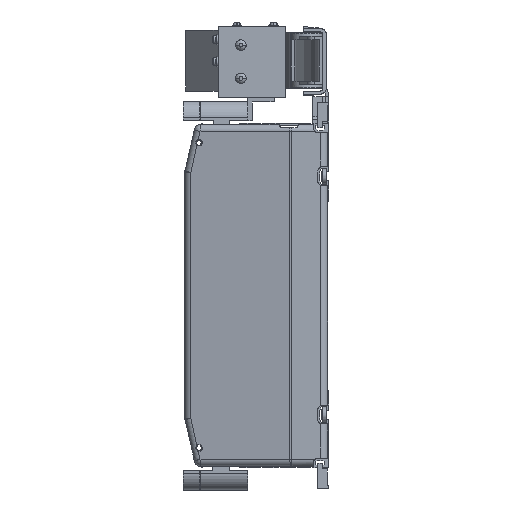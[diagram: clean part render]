
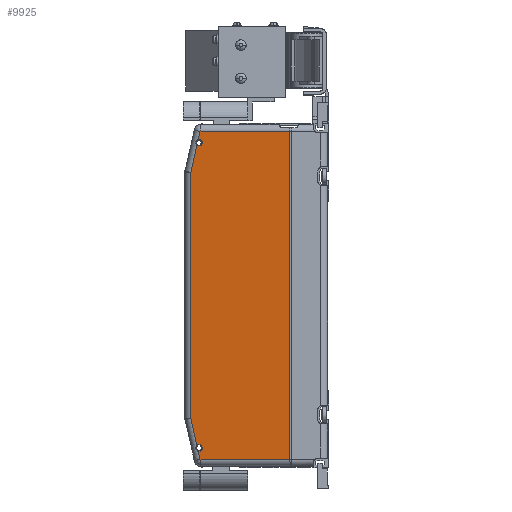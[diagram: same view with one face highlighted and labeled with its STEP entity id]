
A CAD part, left-side view. The second image highlights one B-rep face of the part: STEP entity #9925.
In plain terms, the highlighted planar face has unit normal (-0.986, 0.164, 0).
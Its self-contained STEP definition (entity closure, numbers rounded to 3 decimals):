
#8861=CARTESIAN_POINT('',(-1.429,94.428,
-108.488));
#8862=CARTESIAN_POINT('',(-1.502,93.989,
-108.137));
#8863=CARTESIAN_POINT('',(-1.585,93.489,-107.963));
#8864=CARTESIAN_POINT('',(-1.678,92.93,-107.963));
#8870=CARTESIAN_POINT('',(-1.678,92.93,-112.763));
#8871=CARTESIAN_POINT('',(-1.647,93.117,-112.763));
#8872=CARTESIAN_POINT('',(-1.616,93.302,
-112.741));
#8873=CARTESIAN_POINT('',(-1.586,93.484,
-112.698));
#8895=DIRECTION('',(-0.164,-0.986,0.));
#8896=VECTOR('',#8895,65.855);
#8897=CARTESIAN_POINT('',(-1.805,92.167,118.573));
#8898=LINE('',#8897,#8896);
#8899=DIRECTION('',(0.,0.,-1.));
#8900=VECTOR('',#8899,237.146);
#8901=CARTESIAN_POINT('',(-12.632,27.208,118.573));
#8902=LINE('',#8901,#8900);
#8903=DIRECTION('',(0.164,0.986,0.));
#8904=VECTOR('',#8903,65.855);
#8905=CARTESIAN_POINT('',(-12.632,27.208,-118.573));
#8906=LINE('',#8905,#8904);
#8907=DIRECTION('',(0.036,0.219,0.975));
#8908=VECTOR('',#8907,6.025);
#8909=CARTESIAN_POINT('',(-1.805,92.167,-118.573));
#8910=LINE('',#8909,#8908);
#8911=DIRECTION('',(0.036,0.219,0.975));
#8912=VECTOR('',#8911,20.094);
#8913=CARTESIAN_POINT('',(-1.429,94.428,
-108.488));
#8914=LINE('',#8913,#8912);
#8915=DIRECTION('',(-0.036,-0.219,0.975));
#8916=VECTOR('',#8915,20.071);
#8917=CARTESIAN_POINT('',(-0.696,98.822,
88.894));
#8918=LINE('',#8917,#8916);
#8919=DIRECTION('',(-0.036,-0.219,0.975));
#8920=VECTOR('',#8919,6.053);
#8921=CARTESIAN_POINT('',(-1.585,93.491,112.671));
#8922=LINE('',#8921,#8920);
#8986=DIRECTION('',(0.,0.,-1.));
#8987=VECTOR('',#8986,177.789);
#8988=CARTESIAN_POINT('',(-0.696,98.822,
88.894));
#8989=LINE('',#8988,#8987);
#9050=CARTESIAN_POINT('',(-1.585,93.491,112.671));
#9051=CARTESIAN_POINT('',(-1.616,93.306,112.715));
#9052=CARTESIAN_POINT('',(-1.647,93.119,112.737));
#9053=CARTESIAN_POINT('',(-1.678,92.93,112.737));
#9059=CARTESIAN_POINT('',(-1.678,92.93,107.937));
#9060=CARTESIAN_POINT('',(-1.585,93.492,107.937));
#9061=CARTESIAN_POINT('',(-1.501,93.993,108.112));
#9062=CARTESIAN_POINT('',(-1.428,94.433,108.466));
#9064=CARTESIAN_POINT('',(-1.678,92.93,112.737));
#9065=CARTESIAN_POINT('',(-1.725,92.647,112.737));
#9066=CARTESIAN_POINT('',(-1.827,92.036,112.634));
#9067=CARTESIAN_POINT('',(-1.97,91.182,112.086));
#9068=CARTESIAN_POINT('',(-2.061,90.633,111.225));
#9069=CARTESIAN_POINT('',(-2.087,90.479,110.337));
#9070=CARTESIAN_POINT('',(-2.061,90.633,109.449));
#9071=CARTESIAN_POINT('',(-1.97,91.182,108.588));
#9072=CARTESIAN_POINT('',(-1.827,92.036,108.04));
#9073=CARTESIAN_POINT('',(-1.725,92.647,107.937));
#9074=CARTESIAN_POINT('',(-1.678,92.93,107.937));
#9080=CARTESIAN_POINT('',(-1.678,92.93,-107.963));
#9081=CARTESIAN_POINT('',(-1.725,92.647,-107.963));
#9082=CARTESIAN_POINT('',(-1.827,92.036,
-108.066));
#9083=CARTESIAN_POINT('',(-1.97,91.182,
-108.614));
#9084=CARTESIAN_POINT('',(-2.061,90.633,
-109.475));
#9085=CARTESIAN_POINT('',(-2.087,90.479,-110.363));
#9086=CARTESIAN_POINT('',(-2.061,90.633,
-111.251));
#9087=CARTESIAN_POINT('',(-1.97,91.182,
-112.112));
#9088=CARTESIAN_POINT('',(-1.827,92.036,
-112.66));
#9089=CARTESIAN_POINT('',(-1.725,92.647,-112.763));
#9090=CARTESIAN_POINT('',(-1.678,92.93,-112.763));
#9235=VERTEX_POINT('',#9080);
#9236=VERTEX_POINT('',#9090);
#9237=VERTEX_POINT('',#9064);
#9238=VERTEX_POINT('',#9074);
#9246=CARTESIAN_POINT('',(-12.632,27.208,118.573));
#9247=VERTEX_POINT('',#9246);
#9248=CARTESIAN_POINT('',(-1.805,92.167,118.573));
#9249=VERTEX_POINT('',#9248);
#9254=CARTESIAN_POINT('',(-1.585,93.491,112.671));
#9255=VERTEX_POINT('',#9254);
#9260=CARTESIAN_POINT('',(-0.696,98.822,
88.894));
#9261=VERTEX_POINT('',#9260);
#9262=CARTESIAN_POINT('',(-1.428,94.433,108.466));
#9263=VERTEX_POINT('',#9262);
#9272=CARTESIAN_POINT('',(-12.632,27.208,-118.573));
#9273=VERTEX_POINT('',#9272);
#9276=CARTESIAN_POINT('',(-1.805,92.167,-118.573));
#9277=VERTEX_POINT('',#9276);
#9280=CARTESIAN_POINT('',(-1.586,93.484,
-112.698));
#9281=VERTEX_POINT('',#9280);
#9282=CARTESIAN_POINT('',(-0.696,98.822,
-88.894));
#9284=VERTEX_POINT('',#9282);
#9288=CARTESIAN_POINT('',(-1.429,94.428,
-108.488));
#9289=VERTEX_POINT('',#9288);
#9896=CARTESIAN_POINT('',(-12.632,27.208,125.));
#9897=DIRECTION('',(0.986,-0.164,0.));
#9898=DIRECTION('',(0.164,0.986,0.));
#9899=AXIS2_PLACEMENT_3D('',#9896,#9897,#9898);
#9900=PLANE('',#9899);
#9901=ORIENTED_EDGE('',*,*,#9445,.T.);
#9902=ORIENTED_EDGE('',*,*,#9474,.T.);
#9904=ORIENTED_EDGE('',*,*,#9903,.T.);
#9905=ORIENTED_EDGE('',*,*,#9883,.T.);
#9906=ORIENTED_EDGE('',*,*,#9872,.F.);
#9908=ORIENTED_EDGE('',*,*,#9907,.F.);
#9909=ORIENTED_EDGE('',*,*,#9865,.F.);
#9910=ORIENTED_EDGE('',*,*,#9891,.T.);
#9912=ORIENTED_EDGE('',*,*,#9911,.F.);
#9914=ORIENTED_EDGE('',*,*,#9913,.T.);
#9916=ORIENTED_EDGE('',*,*,#9915,.F.);
#9918=ORIENTED_EDGE('',*,*,#9917,.F.);
#9920=ORIENTED_EDGE('',*,*,#9919,.F.);
#9922=ORIENTED_EDGE('',*,*,#9921,.T.);
#9923=EDGE_LOOP('',(#9901,#9902,#9904,#9905,#9906,#9908,#9909,#9910,#9912,#9914,
#9916,#9918,#9920,#9922));
#9924=FACE_OUTER_BOUND('',#9923,.F.);
#9925=ADVANCED_FACE('',(#9924),#9900,.F.);
#8865=B_SPLINE_CURVE_WITH_KNOTS('',3,(#8861,#8862,#8863,#8864),.UNSPECIFIED.,
.F.,.F.,(4,4),(0.,1.),.UNSPECIFIED.);
#8874=B_SPLINE_CURVE_WITH_KNOTS('',3,(#8870,#8871,#8872,#8873),.UNSPECIFIED.,
.F.,.F.,(4,4),(0.,1.),.UNSPECIFIED.);
#9054=B_SPLINE_CURVE_WITH_KNOTS('',3,(#9050,#9051,#9052,#9053),.UNSPECIFIED.,
.F.,.F.,(4,4),(0.,1.),.UNSPECIFIED.);
#9063=B_SPLINE_CURVE_WITH_KNOTS('',3,(#9059,#9060,#9061,#9062),.UNSPECIFIED.,
.F.,.F.,(4,4),(0.,1.),.UNSPECIFIED.);
#9075=B_SPLINE_CURVE_WITH_KNOTS('',3,(#9064,#9065,#9066,#9067,#9068,#9069,#9070,
#9071,#9072,#9073,#9074),.UNSPECIFIED.,.F.,.F.,(4,1,1,1,1,1,1,1,4),(0.,
0.125,0.25,0.375,0.5,0.625,0.75,0.875,1.),.UNSPECIFIED.);
#9091=B_SPLINE_CURVE_WITH_KNOTS('',3,(#9080,#9081,#9082,#9083,#9084,#9085,#9086,
#9087,#9088,#9089,#9090),.UNSPECIFIED.,.F.,.F.,(4,1,1,1,1,1,1,1,4),(0.,
0.125,0.25,0.375,0.5,0.625,0.75,0.875,1.),.UNSPECIFIED.);
#9445=EDGE_CURVE('',#9249,#9247,#8898,.T.);
#9474=EDGE_CURVE('',#9247,#9273,#8902,.T.);
#9865=EDGE_CURVE('',#9289,#9235,#8865,.T.);
#9872=EDGE_CURVE('',#9236,#9281,#8874,.T.);
#9883=EDGE_CURVE('',#9277,#9281,#8910,.T.);
#9891=EDGE_CURVE('',#9289,#9284,#8914,.T.);
#9903=EDGE_CURVE('',#9273,#9277,#8906,.T.);
#9907=EDGE_CURVE('',#9235,#9236,#9091,.T.);
#9911=EDGE_CURVE('',#9261,#9284,#8989,.T.);
#9913=EDGE_CURVE('',#9261,#9263,#8918,.T.);
#9915=EDGE_CURVE('',#9238,#9263,#9063,.T.);
#9917=EDGE_CURVE('',#9237,#9238,#9075,.T.);
#9919=EDGE_CURVE('',#9255,#9237,#9054,.T.);
#9921=EDGE_CURVE('',#9255,#9249,#8922,.T.);
